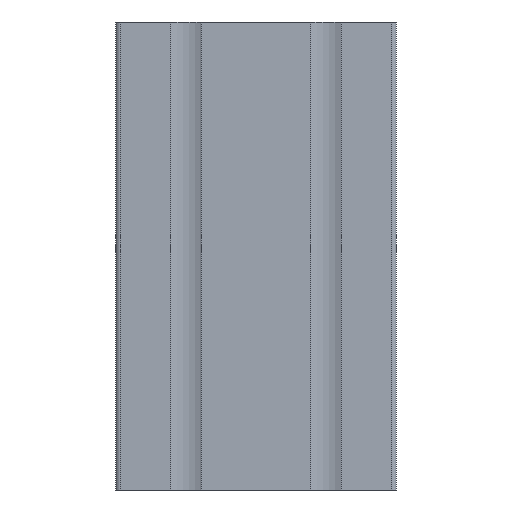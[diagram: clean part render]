
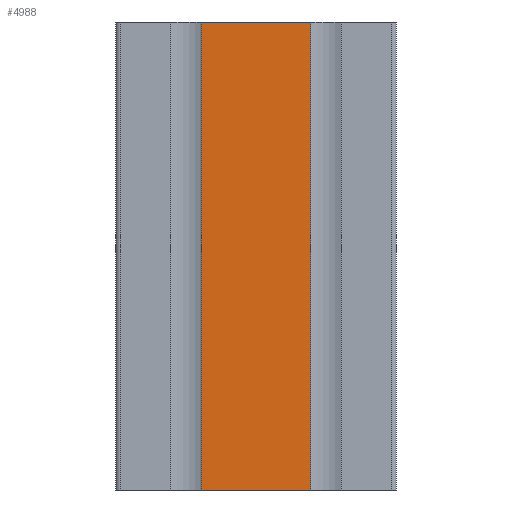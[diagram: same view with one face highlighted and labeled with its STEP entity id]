
A CAD part, front view. The second image highlights one B-rep face of the part: STEP entity #4988.
In plain terms, the highlighted planar face has unit normal (0, -1, 0).
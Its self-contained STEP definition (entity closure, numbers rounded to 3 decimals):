
#147 = ORIENTED_EDGE ( 'NONE', *, *, #2507, .T. ) ;
#347 = CARTESIAN_POINT ( 'NONE',  ( 11.75, -15., 50. ) ) ;
#441 = DIRECTION ( 'NONE',  ( 0., 0., -1. ) ) ;
#482 = LINE ( 'NONE', #6880, #5167 ) ;
#493 = VECTOR ( 'NONE', #7505, 1000. ) ;
#739 = LINE ( 'NONE', #2828, #1178 ) ;
#1071 = VECTOR ( 'NONE', #5165, 1000. ) ;
#1111 = LINE ( 'NONE', #3189, #493 ) ;
#1178 = VECTOR ( 'NONE', #5836, 1000. ) ;
#1470 = FACE_OUTER_BOUND ( 'NONE', #4308, .T. ) ;
#1540 = VERTEX_POINT ( 'NONE', #5479 ) ;
#1812 = VERTEX_POINT ( 'NONE', #5060 ) ;
#2507 = EDGE_CURVE ( 'NONE', #1540, #1812, #1111, .T. ) ;
#2522 = EDGE_CURVE ( 'NONE', #7154, #1812, #482, .T. ) ;
#2828 = CARTESIAN_POINT ( 'NONE',  ( -11.75, -15., 50. ) ) ;
#3189 = CARTESIAN_POINT ( 'NONE',  ( -11.75, -15., -50. ) ) ;
#3481 = AXIS2_PLACEMENT_3D ( 'NONE', #5176, #6603, #7728 ) ;
#3888 = EDGE_CURVE ( 'NONE', #8146, #1540, #5753, .T. ) ;
#4045 = PLANE ( 'NONE',  #3481 ) ;
#4202 = ORIENTED_EDGE ( 'NONE', *, *, #3888, .T. ) ;
#4308 = EDGE_LOOP ( 'NONE', ( #147, #6402, #7783, #4202 ) ) ;
#4988 = ADVANCED_FACE ( 'NONE', ( #1470 ), #4045, .F. ) ;
#5060 = CARTESIAN_POINT ( 'NONE',  ( 11.75, -15., -50. ) ) ;
#5165 = DIRECTION ( 'NONE',  ( 0., 0., -1. ) ) ;
#5167 = VECTOR ( 'NONE', #441, 1000. ) ;
#5176 = CARTESIAN_POINT ( 'NONE',  ( -11.75, -15., 50. ) ) ;
#5479 = CARTESIAN_POINT ( 'NONE',  ( -11.75, -15., -50. ) ) ;
#5753 = LINE ( 'NONE', #6464, #1071 ) ;
#5836 = DIRECTION ( 'NONE',  ( 1., 0., 0. ) ) ;
#6402 = ORIENTED_EDGE ( 'NONE', *, *, #2522, .F. ) ;
#6464 = CARTESIAN_POINT ( 'NONE',  ( -11.75, -15., 50. ) ) ;
#6603 = DIRECTION ( 'NONE',  ( 0., 1., 0. ) ) ;
#6618 = EDGE_CURVE ( 'NONE', #8146, #7154, #739, .T. ) ;
#6880 = CARTESIAN_POINT ( 'NONE',  ( 11.75, -15., 50. ) ) ;
#6915 = CARTESIAN_POINT ( 'NONE',  ( -11.75, -15., 50. ) ) ;
#7154 = VERTEX_POINT ( 'NONE', #347 ) ;
#7505 = DIRECTION ( 'NONE',  ( 1., 0., 0. ) ) ;
#7728 = DIRECTION ( 'NONE',  ( 0., 0., 1. ) ) ;
#7783 = ORIENTED_EDGE ( 'NONE', *, *, #6618, .F. ) ;
#8146 = VERTEX_POINT ( 'NONE', #6915 ) ;
